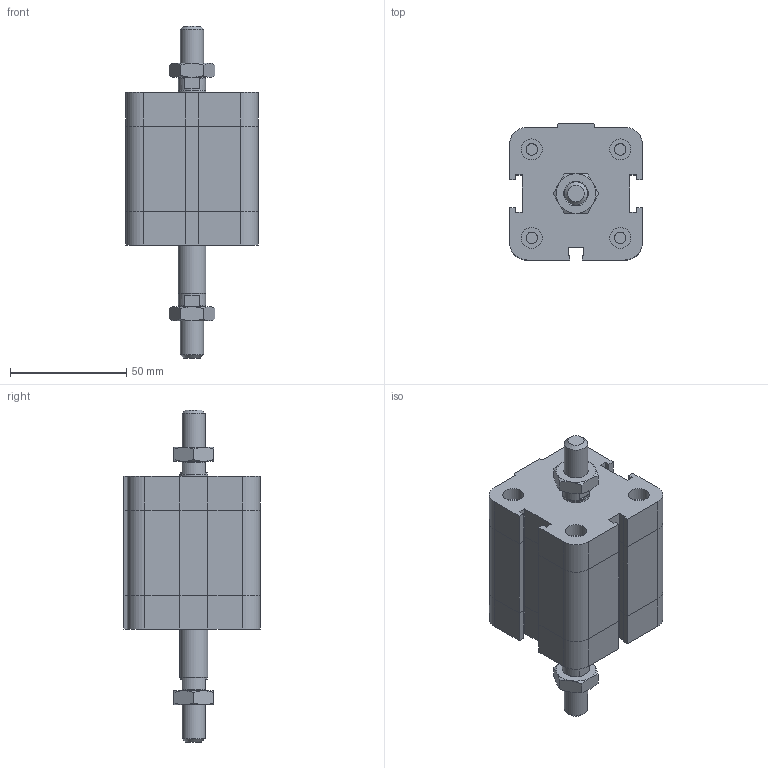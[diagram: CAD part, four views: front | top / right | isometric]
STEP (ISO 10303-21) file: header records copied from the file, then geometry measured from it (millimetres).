
FILE_DESCRIPTION((''),'2;1');
FILE_NAME('I:\Area Tecnica\Disegni\VARIE-3D\Componenti\EUROPE\15##_###_####_04_#\1561_40_0020_04_1.iam.stp','2009-04-20T14:45:34',(''),(''),'Autodesk Inventor 2009','Autodesk Inventor 2009','');
FILE_SCHEMA(('AUTOMOTIVE_DESIGN { 1 0 10303 214 1 1 1 1 }'));
Length unit declared in the file: millimetre
Products named in the file (4): 1561_40_0020_04_1; 1561_40_0020_03_1_C; 1561_40_0020_04_1_S; DBFM10
Assembly tree (4 placements, depth 2):
  1561_40_0020_04_1
    1561_40_0020_03_1_C
    1561_40_0020_04_1_S
    DBFM10  x2
Bounding box: 57 x 58.5 x 142.5 mm (x, y, z)
Volume: 202261.2 mm3; surface area: 36132 mm2
Topology: 4 solids, 4 shells, 222 faces, 483 edges, 289 vertices
Faces by surface type: plane 129, cone 35, bspline 33, cylinder 25
Full cylindrical faces by diameter (mm): 4.917 x4, 8.8 x1, 9 x4, 10 x1, 11.7 x2, 12 x1
Entity records: 5450 total; most frequent: CARTESIAN_POINT 1222, DIRECTION 802, ORIENTED_EDGE 772, EDGE_CURVE 386, AXIS2_PLACEMENT_3D 272, EDGE_LOOP 258, VECTOR 258, LINE 258
